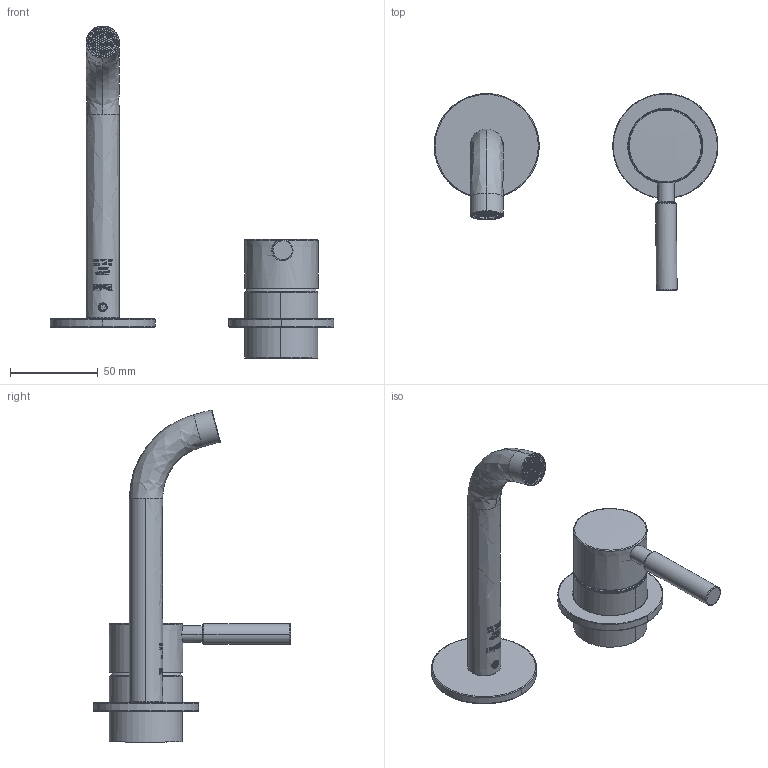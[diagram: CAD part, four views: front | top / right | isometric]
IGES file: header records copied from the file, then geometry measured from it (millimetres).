
Start section: SolidWorks IGES file using analytic representation for surfaces
Global section: file name: C:\Users\ccai\Desktop\CeliaC\Projects\250731-ADHOC-03520 NF LINEART\SKU_TRU360series_IGS\TRU360SERIES.IGS; native system: SolidWorks 2023; preprocessor: SolidWorks 2023; author: ccai; date: 250715.095100; units: millimetre
Bounding box: 162 x 112.55 x 189.6 mm (x, y, z)
Volume: 80249.9 mm3; surface area: 74543 mm2
Topology: 19 solids, 19 shells, 4689 faces, 12488 edges, 7867 vertices
Faces by surface type: plane 2315, revolution 1574, bspline 800
